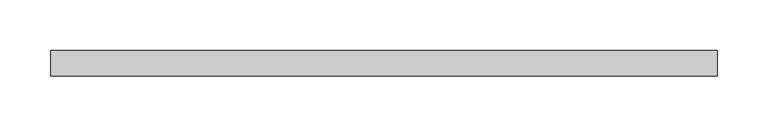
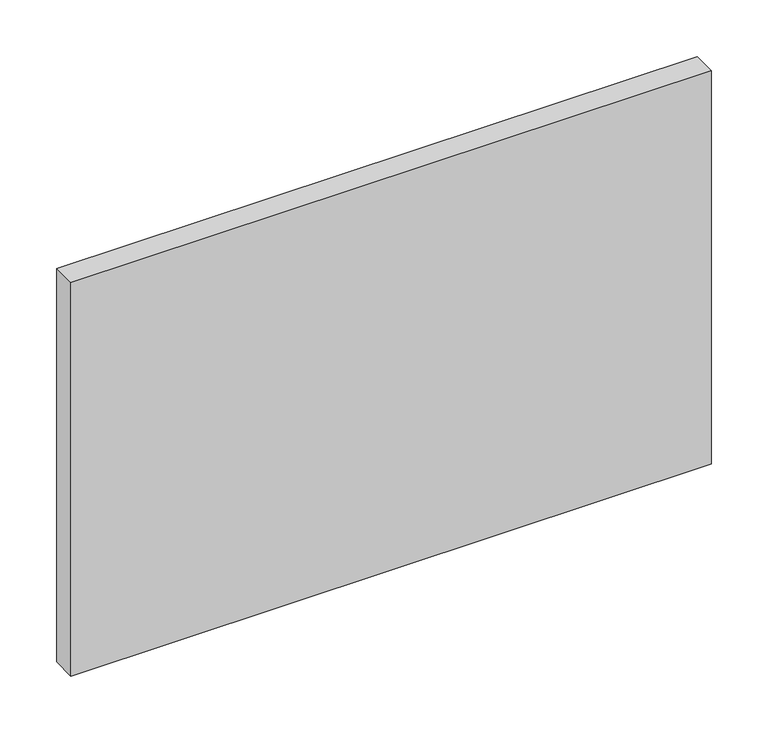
"""IFC4 building model written with IfcOpenShell, lengths in millimetres: plate geometry, システム パネル1 : ガラス."""

from ifc_helpers import new_model, si_unit, origin, origin_with_axes, place, context, project, spatial, polyline, outline, extrude, source, transform, mapped, element, save


def plate_cf903d6a(model_context):
    return source(origin(), model_context, "Body", "SweptSolid", [
        extrude(outline(polyline([(327.0833333, 24.5), (-327.0833333, 24.5), (-327.0833333, 49.5), (327.0833333, 49.5), (327.0833333, 24.5)])), origin_with_axes(), (0.0, 0.0, 1.0), 425.0),
    ])


if __name__ == "__main__":
    model = new_model("IFC4")
    model_context = context("Model", 3, world=origin())
    ifc_project = project(units=[si_unit("LENGTHUNIT", "METRE", prefix="MILLI")], contexts=[model_context])
    site = spatial("IfcSite", under=ifc_project)
    building = spatial("IfcBuilding", under=site)
    placement = place(None, origin())
    plate_shape = plate_cf903d6a(model_context)
    element("IfcPlate", 1, ObjectType="システム パネル1 : ガラス", at=placement, inside=building, context=model_context, shape_type="MappedRepresentation", body=[
        mapped(plate_shape, transform((0.0, 0.0, 0.0), x_axis=(1.0, 0.0, 0.0), y_axis=(0.0, 1.0, 0.0), z_axis=(0.0, 0.0, 1.0))),
    ])
    save(model, "model.ifc")
